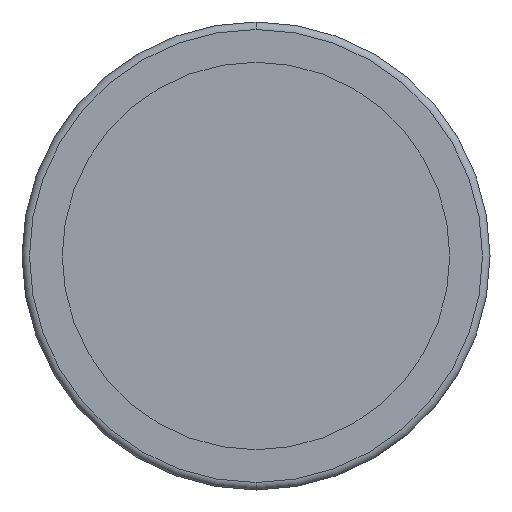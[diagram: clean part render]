
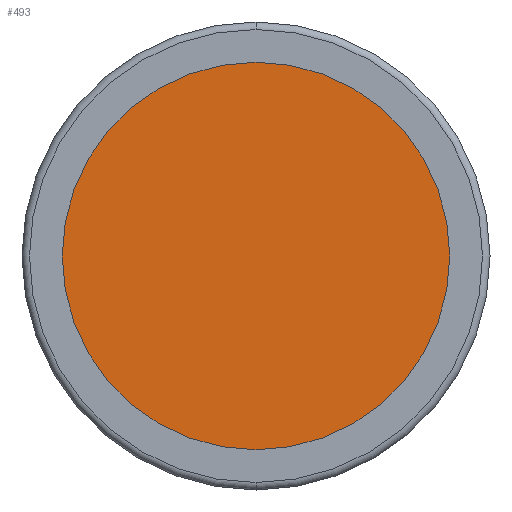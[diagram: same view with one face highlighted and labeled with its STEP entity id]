
A CAD part, front view. The second image highlights one B-rep face of the part: STEP entity #493.
In plain terms, the highlighted planar face has unit normal (0, -1, 0).
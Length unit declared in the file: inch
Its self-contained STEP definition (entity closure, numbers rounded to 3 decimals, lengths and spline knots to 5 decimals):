
#9 = DIRECTION ( 'NONE',  ( 0., 0., -1. ) ) ;
#12 = EDGE_LOOP ( 'NONE', ( #1157, #902 ) ) ;
#20 = DIRECTION ( 'NONE',  ( 0., 0., -1. ) ) ;
#34 = CIRCLE ( 'NONE', #868, 0.5175 ) ;
#112 = CIRCLE ( 'NONE', #1379, 0.5175 ) ;
#165 = VERTEX_POINT ( 'NONE', #1390 ) ;
#334 = EDGE_CURVE ( 'NONE', #165, #916, #34, .T. ) ;
#343 = CARTESIAN_POINT ( 'NONE',  ( 0., -0.555, 0. ) ) ;
#492 = FACE_OUTER_BOUND ( 'NONE', #12, .T. ) ;
#493 = ADVANCED_FACE ( 'NONE', ( #492 ), #706, .T. ) ;
#509 = DIRECTION ( 'NONE',  ( 0., -1., 0. ) ) ;
#693 = CARTESIAN_POINT ( 'NONE',  ( 0., -0.555, 0. ) ) ;
#706 = PLANE ( 'NONE',  #1368 ) ;
#868 = AXIS2_PLACEMENT_3D ( 'NONE', #1097, #878, #9 ) ;
#878 = DIRECTION ( 'NONE',  ( 0., -1., 0. ) ) ;
#902 = ORIENTED_EDGE ( 'NONE', *, *, #1149, .T. ) ;
#916 = VERTEX_POINT ( 'NONE', #1381 ) ;
#918 = DIRECTION ( 'NONE',  ( 0., 0., -1. ) ) ;
#966 = DIRECTION ( 'NONE',  ( 0., -1., 0. ) ) ;
#1097 = CARTESIAN_POINT ( 'NONE',  ( 0., -0.555, 0. ) ) ;
#1149 = EDGE_CURVE ( 'NONE', #916, #165, #112, .T. ) ;
#1157 = ORIENTED_EDGE ( 'NONE', *, *, #334, .T. ) ;
#1368 = AXIS2_PLACEMENT_3D ( 'NONE', #693, #509, #918 ) ;
#1379 = AXIS2_PLACEMENT_3D ( 'NONE', #343, #966, #20 ) ;
#1381 = CARTESIAN_POINT ( 'NONE',  ( 0., -0.555, -0.5175 ) ) ;
#1390 = CARTESIAN_POINT ( 'NONE',  ( 0., -0.555, 0.5175 ) ) ;
